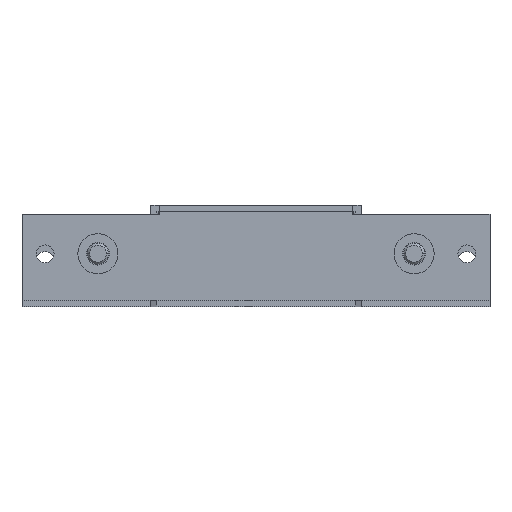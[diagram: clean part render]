
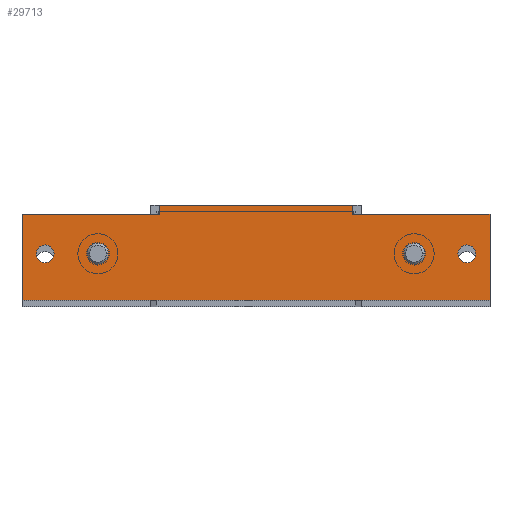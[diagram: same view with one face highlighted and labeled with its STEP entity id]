
A CAD part, top view. The second image highlights one B-rep face of the part: STEP entity #29713.
In plain terms, the highlighted planar face has unit normal (0, 0, 1).
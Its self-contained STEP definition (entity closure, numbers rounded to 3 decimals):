
#3082 = VERTEX_POINT('',#3083);
#3083 = CARTESIAN_POINT('',(-47.9,-11.5,448.5));
#3089 = EDGE_CURVE('',#3090,#3082,#3092,.T.);
#3090 = VERTEX_POINT('',#3091);
#3091 = CARTESIAN_POINT('',(-52.1,-11.5,448.5));
#3092 = CIRCLE('',#3093,2.1);
#3093 = AXIS2_PLACEMENT_3D('',#3094,#3095,#3096);
#3094 = CARTESIAN_POINT('',(-50.,-11.5,448.5));
#3095 = DIRECTION('',(0.,0.,1.));
#3096 = DIRECTION('',(1.,0.,-0.));
#3124 = VERTEX_POINT('',#3125);
#3125 = CARTESIAN_POINT('',(39.6,-11.5,448.5));
#3131 = EDGE_CURVE('',#3132,#3124,#3134,.T.);
#3132 = VERTEX_POINT('',#3133);
#3133 = CARTESIAN_POINT('',(35.4,-11.5,448.5));
#3134 = CIRCLE('',#3135,2.1);
#3135 = AXIS2_PLACEMENT_3D('',#3136,#3137,#3138);
#3136 = CARTESIAN_POINT('',(37.5,-11.5,448.5));
#3137 = DIRECTION('',(0.,0.,1.));
#3138 = DIRECTION('',(-1.,0.,0.));
#3166 = VERTEX_POINT('',#3167);
#3167 = CARTESIAN_POINT('',(52.1,-11.5,448.5));
#3173 = EDGE_CURVE('',#3174,#3166,#3176,.T.);
#3174 = VERTEX_POINT('',#3175);
#3175 = CARTESIAN_POINT('',(47.9,-11.5,448.5));
#3176 = CIRCLE('',#3177,2.1);
#3177 = AXIS2_PLACEMENT_3D('',#3178,#3179,#3180);
#3178 = CARTESIAN_POINT('',(50.,-11.5,448.5));
#3179 = DIRECTION('',(0.,0.,1.));
#3180 = DIRECTION('',(-1.,0.,0.));
#3208 = VERTEX_POINT('',#3209);
#3209 = CARTESIAN_POINT('',(-35.4,-11.5,448.5));
#3215 = EDGE_CURVE('',#3216,#3208,#3218,.T.);
#3216 = VERTEX_POINT('',#3217);
#3217 = CARTESIAN_POINT('',(-39.6,-11.5,448.5));
#3218 = CIRCLE('',#3219,2.1);
#3219 = AXIS2_PLACEMENT_3D('',#3220,#3221,#3222);
#3220 = CARTESIAN_POINT('',(-37.5,-11.5,448.5));
#3221 = DIRECTION('',(0.,0.,1.));
#3222 = DIRECTION('',(1.,0.,-0.));
#12371 = VERTEX_POINT('',#12372);
#12372 = CARTESIAN_POINT('',(-22.9,0.,448.5));
#12378 = EDGE_CURVE('',#12379,#12371,#12381,.T.);
#12379 = VERTEX_POINT('',#12380);
#12380 = CARTESIAN_POINT('',(22.9,0.,448.5));
#12381 = LINE('',#12382,#12383);
#12382 = CARTESIAN_POINT('',(-25.,0.,448.5));
#12383 = VECTOR('',#12384,1.);
#12384 = DIRECTION('',(-1.,0.,0.));
#29654 = VERTEX_POINT('',#29655);
#29655 = CARTESIAN_POINT('',(22.9,-2.1,448.5));
#29670 = EDGE_CURVE('',#29654,#12379,#29671,.T.);
#29671 = LINE('',#29672,#29673);
#29672 = CARTESIAN_POINT('',(22.9,-2.1,448.5));
#29673 = VECTOR('',#29674,1.);
#29674 = DIRECTION('',(-0.,1.,0.));
#29694 = VERTEX_POINT('',#29695);
#29695 = CARTESIAN_POINT('',(-22.9,-2.1,448.5));
#29701 = EDGE_CURVE('',#29694,#12371,#29702,.T.);
#29702 = LINE('',#29703,#29704);
#29703 = CARTESIAN_POINT('',(-22.9,0.,448.5));
#29704 = VECTOR('',#29705,1.);
#29705 = DIRECTION('',(0.,1.,0.));
#29713 = ADVANCED_FACE('',(#29714,#29724,#29734,#29744,#29754),#29797,
  .T.);
#29714 = FACE_BOUND('',#29715,.T.);
#29715 = EDGE_LOOP('',(#29716,#29723));
#29716 = ORIENTED_EDGE('',*,*,#29717,.F.);
#29717 = EDGE_CURVE('',#3082,#3090,#29718,.T.);
#29718 = CIRCLE('',#29719,2.1);
#29719 = AXIS2_PLACEMENT_3D('',#29720,#29721,#29722);
#29720 = CARTESIAN_POINT('',(-50.,-11.5,448.5));
#29721 = DIRECTION('',(0.,0.,1.));
#29722 = DIRECTION('',(1.,0.,-0.));
#29723 = ORIENTED_EDGE('',*,*,#3089,.F.);
#29724 = FACE_BOUND('',#29725,.T.);
#29725 = EDGE_LOOP('',(#29726,#29733));
#29726 = ORIENTED_EDGE('',*,*,#29727,.F.);
#29727 = EDGE_CURVE('',#3124,#3132,#29728,.T.);
#29728 = CIRCLE('',#29729,2.1);
#29729 = AXIS2_PLACEMENT_3D('',#29730,#29731,#29732);
#29730 = CARTESIAN_POINT('',(37.5,-11.5,448.5));
#29731 = DIRECTION('',(0.,0.,1.));
#29732 = DIRECTION('',(-1.,0.,0.));
#29733 = ORIENTED_EDGE('',*,*,#3131,.F.);
#29734 = FACE_BOUND('',#29735,.T.);
#29735 = EDGE_LOOP('',(#29736,#29743));
#29736 = ORIENTED_EDGE('',*,*,#29737,.F.);
#29737 = EDGE_CURVE('',#3166,#3174,#29738,.T.);
#29738 = CIRCLE('',#29739,2.1);
#29739 = AXIS2_PLACEMENT_3D('',#29740,#29741,#29742);
#29740 = CARTESIAN_POINT('',(50.,-11.5,448.5));
#29741 = DIRECTION('',(0.,0.,1.));
#29742 = DIRECTION('',(-1.,0.,0.));
#29743 = ORIENTED_EDGE('',*,*,#3173,.F.);
#29744 = FACE_BOUND('',#29745,.T.);
#29745 = EDGE_LOOP('',(#29746,#29753));
#29746 = ORIENTED_EDGE('',*,*,#29747,.F.);
#29747 = EDGE_CURVE('',#3208,#3216,#29748,.T.);
#29748 = CIRCLE('',#29749,2.1);
#29749 = AXIS2_PLACEMENT_3D('',#29750,#29751,#29752);
#29750 = CARTESIAN_POINT('',(-37.5,-11.5,448.5));
#29751 = DIRECTION('',(0.,0.,1.));
#29752 = DIRECTION('',(1.,0.,-0.));
#29753 = ORIENTED_EDGE('',*,*,#3215,.F.);
#29754 = FACE_BOUND('',#29755,.T.);
#29755 = EDGE_LOOP('',(#29756,#29766,#29774,#29780,#29781,#29782,#29783,
    #29791));
#29756 = ORIENTED_EDGE('',*,*,#29757,.F.);
#29757 = EDGE_CURVE('',#29758,#29760,#29762,.T.);
#29758 = VERTEX_POINT('',#29759);
#29759 = CARTESIAN_POINT('',(55.5,-22.5,448.5));
#29760 = VERTEX_POINT('',#29761);
#29761 = CARTESIAN_POINT('',(-55.5,-22.5,448.5));
#29762 = LINE('',#29763,#29764);
#29763 = CARTESIAN_POINT('',(-22.9,-22.5,448.5));
#29764 = VECTOR('',#29765,1.);
#29765 = DIRECTION('',(-1.,0.,-0.));
#29766 = ORIENTED_EDGE('',*,*,#29767,.F.);
#29767 = EDGE_CURVE('',#29768,#29758,#29770,.T.);
#29768 = VERTEX_POINT('',#29769);
#29769 = CARTESIAN_POINT('',(55.5,-2.1,448.5));
#29770 = LINE('',#29771,#29772);
#29771 = CARTESIAN_POINT('',(55.5,-19.5,448.5));
#29772 = VECTOR('',#29773,1.);
#29773 = DIRECTION('',(0.,-1.,0.));
#29774 = ORIENTED_EDGE('',*,*,#29775,.F.);
#29775 = EDGE_CURVE('',#29654,#29768,#29776,.T.);
#29776 = LINE('',#29777,#29778);
#29777 = CARTESIAN_POINT('',(22.9,-2.1,448.5));
#29778 = VECTOR('',#29779,1.);
#29779 = DIRECTION('',(1.,0.,0.));
#29780 = ORIENTED_EDGE('',*,*,#29670,.T.);
#29781 = ORIENTED_EDGE('',*,*,#12378,.T.);
#29782 = ORIENTED_EDGE('',*,*,#29701,.F.);
#29783 = ORIENTED_EDGE('',*,*,#29784,.T.);
#29784 = EDGE_CURVE('',#29694,#29785,#29787,.T.);
#29785 = VERTEX_POINT('',#29786);
#29786 = CARTESIAN_POINT('',(-55.5,-2.1,448.5));
#29787 = LINE('',#29788,#29789);
#29788 = CARTESIAN_POINT('',(-22.9,-2.1,448.5));
#29789 = VECTOR('',#29790,1.);
#29790 = DIRECTION('',(-1.,0.,0.));
#29791 = ORIENTED_EDGE('',*,*,#29792,.T.);
#29792 = EDGE_CURVE('',#29785,#29760,#29793,.T.);
#29793 = LINE('',#29794,#29795);
#29794 = CARTESIAN_POINT('',(-55.5,-19.5,448.5));
#29795 = VECTOR('',#29796,1.);
#29796 = DIRECTION('',(0.,-1.,-0.));
#29797 = PLANE('',#29798);
#29798 = AXIS2_PLACEMENT_3D('',#29799,#29800,#29801);
#29799 = CARTESIAN_POINT('',(0.,0.,
    448.5));
#29800 = DIRECTION('',(0.,0.,1.));
#29801 = DIRECTION('',(0.,-1.,0.));
